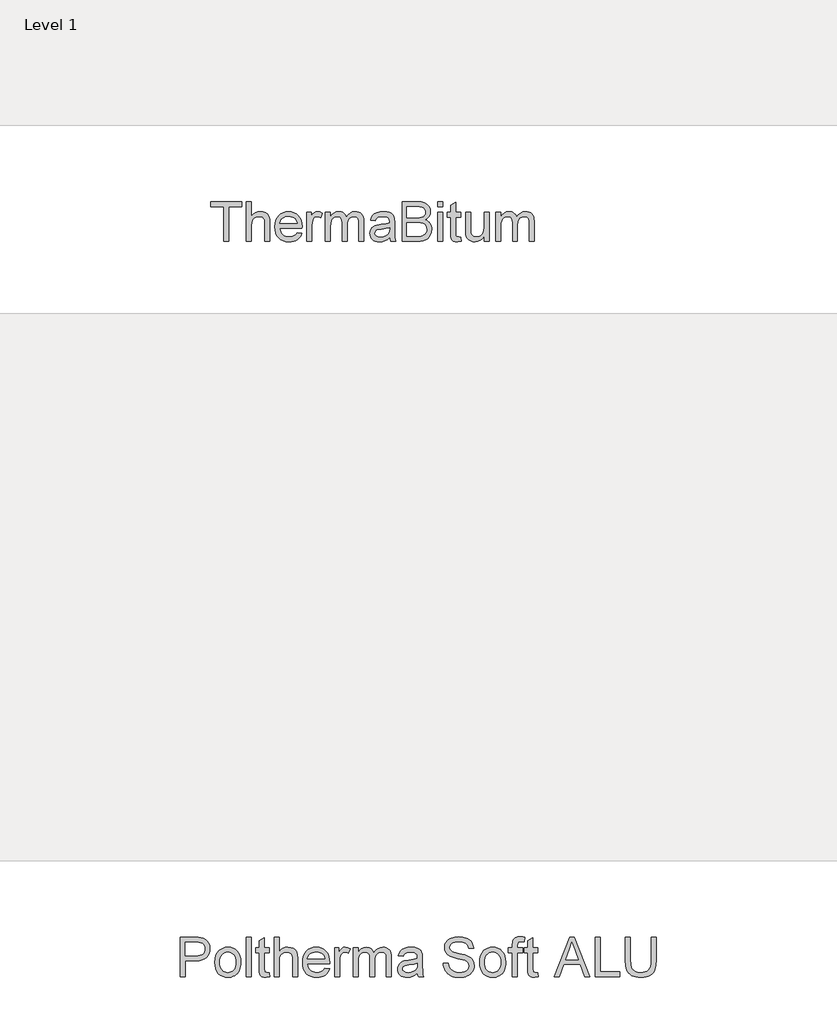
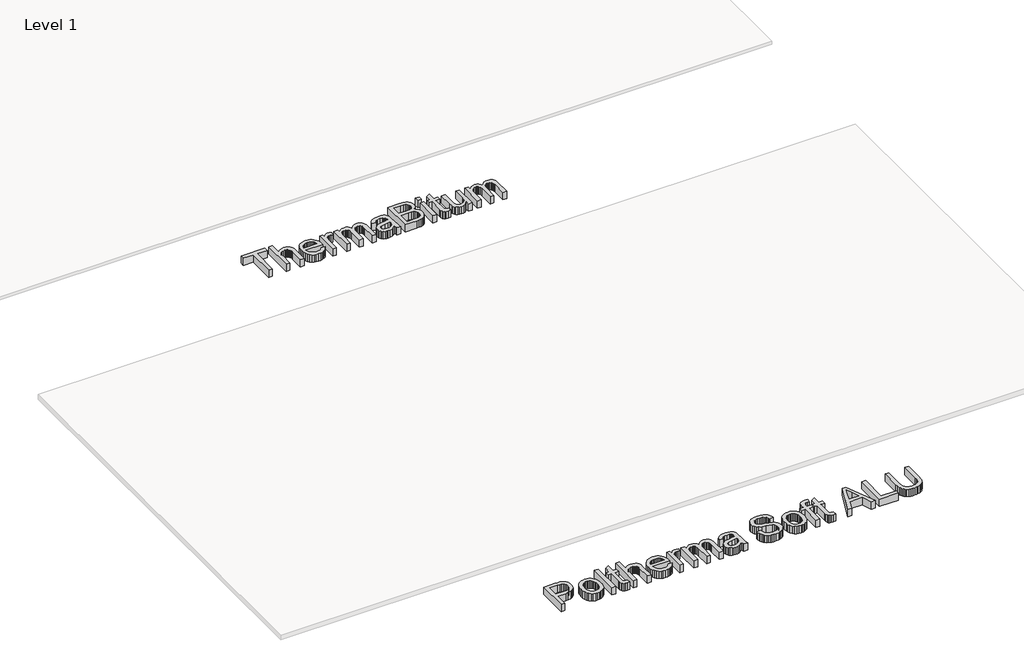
# One storey, part 16 of 27: 2 proxies.
"""IFC4 building model written with IfcOpenShell, lengths in millimetres."""

from ifc_helpers import new_model, si_unit, origin, origin_with_axes, place, context, project, spatial, polyline, outline, extrude, element, save

model = new_model("IFC4")

# Units and contexts
model_context = context("Model", 3, world=origin())
ifc_project = project(units=[si_unit("LENGTHUNIT", "METRE", prefix="MILLI")], contexts=[model_context])

# Site, building, storey
site = spatial("IfcSite", under=ifc_project)
building = spatial("IfcBuilding", under=site)
storey = spatial("IfcBuildingStorey", under=building, Name="Level 1", Elevation=0.0)

# Proxies
placement = place(None, origin())
element("IfcBuildingElementProxy", 1, Name="600mm Arial", ObjectType="600mm Arial", at=placement, inside=storey, context=model_context, shape_type="SweptSolid", body=[
    extrude(outline(polyline([(31274.77699, -34088.4076888), (31274.77699, -33571.4846119), (31080.9308362, -33571.4846119), (31080.9308362, -33497.6384581), (31542.4692977, -33497.6384581), (31542.4692977, -33571.4846119), (31348.6231439, -33571.4846119), (31348.6231439, -34088.4076888), (31274.77699, -34088.4076888)])), origin_with_axes(), (0.0, 0.0, 1.0), 150.0),
    extrude(outline(polyline([(31616.3154516, -34088.4076888), (31616.3154516, -33497.6384581), (31690.1616054, -33497.6384581), (31690.1616054, -33714.8499965), (31717.2860045, -33684.4353331), (31747.74574, -33662.7105734), (31781.5408122, -33649.6757177), (31818.6712208, -33645.3307657), (31863.2745862, -33650.0723523), (31901.6039131, -33664.2971119), (31931.7842016, -33686.8872561), (31951.9404516, -33716.7249965), (31963.2986247, -33757.7225927), (31967.0846824, -33813.7923042), (31967.0846824, -34088.4076888), (31893.2385285, -34088.4076888), (31893.2385285, -33821.436535), (31891.7691775, -33796.5026407), (31887.3611247, -33775.2105734), (31880.0143699, -33757.5603331), (31869.7289131, -33743.5519196), (31856.7481439, -33732.8878571), (31841.3154516, -33725.2706696), (31823.4308362, -33720.7003571), (31803.0942977, -33719.1769196), (31771.886365, -33723.2874965), (31742.58949, -33735.6192273), (31718.3226631, -33754.9822081), (31702.2048747, -33780.186535), (31693.1724227, -33813.6841311), (31690.1616054, -33857.9269196), (31690.1616054, -34088.4076888), (31616.3154516, -34088.4076888)])), origin_with_axes(), (0.0, 0.0, 1.0), 150.0),
    extrude(outline(polyline([(32372.3731439, -33959.1769196), (32444.77699, -33968.4076888), (32433.675728, -33997.4070879), (32418.6892497, -34022.9629773), (32399.8175549, -34045.0753571), (32377.0606439, -34063.7442273), (32350.6528915, -34078.5729532), (32320.8286727, -34089.1649004), (32287.5879876, -34095.5200686), (32250.9308362, -34097.6384581), (32205.1105237, -34093.9831095), (32164.2842016, -34083.0170638), (32128.4518699, -34064.740321), (32097.6135285, -34039.1528811), (32072.8148506, -34006.9668835), (32055.1015093, -33968.8944677), (32044.4735045, -33924.9356335), (32040.9308362, -33875.0903811), (32044.5095622, -33823.5549244), (32055.24574, -33778.1312465), (32073.1393699, -33738.8193475), (32098.1904516, -33705.6192273), (32128.9476631, -33679.2430254), (32163.9596824, -33660.4028811), (32203.2265093, -33649.0987946), (32246.7481439, -33645.3307657), (32288.8680357, -33649.0897802), (32326.9584804, -33660.3668234), (32361.019478, -33679.1618956), (32391.0510285, -33705.4749965), (32415.5657521, -33738.6030013), (32433.0762689, -33777.842785), (32443.582579, -33823.1943475), (32447.0846824, -33874.6576888), (32446.65199, -33894.561535), (32114.77699, -33894.561535), (32119.0543338, -33924.029684), (32127.559442, -33949.8379773), (32140.2923146, -33971.9864148), (32157.2529516, -33990.4749965), (32177.503853, -34005.0513186), (32200.1075189, -34015.4629773), (32225.0639492, -34021.7099725), (32252.3731439, -34023.7923042), (32291.6760285, -34019.9341311), (32324.77699, -34008.3596119), (32351.6760285, -33988.3475927), (32372.3731439, -33959.1769196)]), holes=[polyline([(32114.77699, -33820.7153811), (32373.2385285, -33820.7153811), (32363.2505477, -33781.7009581), (32354.6598025, -33766.35841), (32343.6712208, -33753.7923042), (32323.5329997, -33738.6480734), (32300.6183362, -33727.8307657), (32274.9272304, -33721.3403811), (32246.4596824, -33719.1769196), (32220.4936367, -33720.9031816), (32196.6820381, -33726.0819677), (32175.0248867, -33734.7132778), (32155.5221824, -33746.7971119), (32139.1564973, -33761.7745758), (32126.9104035, -33779.0867754), (32118.7839011, -33798.7337105), (32114.77699, -33820.7153811)])]), origin_with_axes(), (0.0, 0.0, 1.0), 150.0),
    extrude(outline(polyline([(32520.9308362, -34088.4076888), (32520.9308362, -33654.561535), (32585.5462208, -33654.561535), (32585.5462208, -33718.7442273), (32609.4164131, -33681.5326888), (32631.4116054, -33659.6096119), (32653.4789131, -33648.9004773), (32677.5654516, -33645.3307657), (32714.3442977, -33651.0278811), (32751.700067, -33668.1192273), (32727.0366054, -33734.3211504), (32701.075067, -33722.9629773), (32675.1135285, -33719.1769196), (32653.0642497, -33722.8187465), (32633.3587208, -33733.7442273), (32617.4392497, -33751.124035), (32606.7481439, -33774.1288427), (32597.7697785, -33815.3788427), (32594.77699, -33860.3788427), (32594.77699, -34088.4076888), (32520.9308362, -34088.4076888)])), origin_with_axes(), (0.0, 0.0, 1.0), 150.0),
    extrude(outline(polyline([(32797.8539131, -34088.4076888), (32797.8539131, -33654.561535), (32871.700067, -33654.561535), (32871.700067, -33725.9557657), (32893.9116054, -33693.1612946), (32922.4692977, -33667.4701888), (32956.3995862, -33650.8656215), (32994.7289131, -33645.3307657), (33035.7986247, -33650.9737946), (33053.277591, -33658.0275806), (33068.7192977, -33667.9028811), (33093.3106439, -33695.0002369), (33109.3923747, -33731.1480734), (33136.309442, -33693.6030013), (33167.012567, -33666.7850927), (33201.5017497, -33650.6943475), (33239.77699, -33645.3307657), (33269.3397905, -33647.5618355), (33295.2878074, -33654.2550446), (33317.6210405, -33665.4103931), (33336.33949, -33681.0278811), (33351.1366655, -33701.287797), (33361.7060766, -33726.3704292), (33368.0477232, -33756.2757778), (33370.1616054, -33791.0038427), (33370.1616054, -34088.4076888), (33296.3154516, -34088.4076888), (33296.3154516, -33822.7346119), (33294.6027112, -33785.9016792), (33289.46449, -33761.0759581), (33279.8370862, -33744.0747561), (33264.6567977, -33730.7153811), (33245.1315574, -33722.061535), (33222.4692977, -33719.1769196), (33201.5423146, -33721.0248763), (33182.4632881, -33726.5687465), (33165.2322184, -33735.8085302), (33149.8491054, -33748.7442273), (33137.1973626, -33765.7544436), (33128.1604035, -33787.217785), (33122.738228, -33813.1342513), (33120.9308362, -33843.5038427), (33120.9308362, -34088.4076888), (33047.0846824, -34088.4076888), (33047.0846824, -33814.5134581), (33042.8118458, -33772.7586504), (33029.9933362, -33742.9749965), (33020.081978, -33732.5633379), (33007.4392497, -33725.1264388), (32992.0651511, -33720.6642994), (32973.9596824, -33719.1769196), (32945.5101631, -33723.1432657), (32919.2962208, -33735.0423042), (32897.6616054, -33754.5855734), (32882.950067, -33781.4846119), (32874.512567, -33818.8043234), (32871.700067, -33869.6096119), (32871.700067, -34088.4076888), (32797.8539131, -34088.4076888)])), origin_with_axes(), (0.0, 0.0, 1.0), 150.0),
    extrude(outline(polyline([(33757.8539131, -34033.0230734), (33722.5714612, -34063.2754773), (33686.2433362, -34083.0711504), (33648.0402112, -34093.9966311), (33607.1327593, -34097.6384581), (33574.2526511, -34095.4479532), (33545.4200189, -34088.8764388), (33520.6348626, -34077.9239148), (33499.8971824, -34062.5903811), (33483.5224828, -34043.8493956), (33471.8262689, -34022.6745157), (33464.8085405, -33999.0657417), (33462.4692977, -33973.0230734), (33466.0029516, -33942.4100927), (33476.6039131, -33914.6096119), (33492.9560766, -33890.811535), (33513.7433362, -33872.2057657), (33538.1724227, -33858.1432657), (33565.450067, -33847.9749965), (33629.3442977, -33836.8692273), (33704.8491054, -33825.186535), (33757.4212208, -33811.4846119), (33757.8539131, -33795.0423042), (33752.7697785, -33762.0855734), (33746.4146102, -33749.8800446), (33737.5173747, -33740.5230734), (33722.1387689, -33731.1841311), (33703.4067977, -33724.5134581), (33655.8827593, -33719.1769196), (33611.8923747, -33722.7286023), (33581.1712208, -33733.3836504), (33560.2217016, -33753.0891792), (33545.5462208, -33783.7923042), (33471.700067, -33774.561535), (33484.5185766, -33734.1769196), (33503.6471824, -33702.4461504), (33530.87074, -33678.1793234), (33567.9741054, -33660.186535), (33613.3527112, -33649.0447081), (33665.40199, -33645.3307657), (33715.323865, -33648.6120157), (33754.8971824, -33658.4557657), (33784.7349227, -33673.2574484), (33805.450067, -33691.4124965), (33819.1880477, -33713.85841), (33828.0942977, -33741.5326888), (33831.700067, -33806.1480734), (33831.700067, -33898.0230734), (33835.450067, -34026.3163427), (33841.0029516, -34058.0290831), (33850.1616054, -34088.4076888), (33776.3154516, -34088.4076888), (33764.4885285, -34062.7346119), (33757.8539131, -34033.0230734)]), holes=[polyline([(33757.8539131, -33885.3307657), (33708.2385285, -33897.6264388), (33638.7192977, -33907.9749965), (33575.1856439, -33919.9461504), (33558.653192, -33928.1312465), (33546.4116054, -33939.4173042), (33538.83949, -33952.9389388), (33536.3154516, -33967.8307657), (33541.8142497, -33989.7899004), (33558.3106439, -34007.7826888), (33585.4440574, -34019.7899004), (33622.8539131, -34023.7923042), (33662.5173747, -34019.3752369), (33697.5654516, -34006.124035), (33725.9789131, -33986.5987946), (33745.7385285, -33963.3596119), (33754.5005477, -33939.4173042), (33757.4212208, -33906.2442273), (33757.8539131, -33885.3307657)])]), origin_with_axes(), (0.0, 0.0, 1.0), 150.0),
    extrude(outline(polyline([(33942.4692977, -34088.4076888), (33942.4692977, -33497.6384581), (34167.90199, -33497.6384581), (34229.903192, -33501.98341), (34278.3106439, -33515.0182657), (34315.4140093, -33537.0675446), (34330.5852833, -33551.5942874), (34343.5029516, -33568.4557657), (34361.1892497, -33605.3788427), (34367.0846824, -33644.0326888), (34362.1267497, -33679.6036023), (34347.2529516, -33713.0471119), (34322.355115, -33742.3079292), (34287.325067, -33765.3307657), (34309.613228, -33774.8319677), (34329.1700189, -33787.1817273), (34345.9954396, -33802.3800446), (34360.08949, -33820.4269196), (34371.2268098, -33840.7724725), (34379.1820381, -33862.8668234), (34383.9551751, -33886.7099725), (34385.5462208, -33912.3019196), (34381.2012689, -33953.4978331), (34368.1664131, -33991.7009581), (34348.7132881, -34024.1889388), (34325.1135285, -34048.2394196), (34296.2132881, -34065.655285), (34260.8587208, -34078.2394196), (34217.8959804, -34085.8656215), (34166.1712208, -34088.4076888), (33942.4692977, -34088.4076888)]), holes=[polyline([(34016.3154516, -33737.6384581), (34151.1712208, -33737.6384581), (34198.3346824, -33736.0519196), (34229.9212208, -33731.2923042), (34257.4873266, -33720.3487946), (34277.3010285, -33703.9605734), (34289.2541535, -33682.3800446), (34293.2385285, -33655.8596119), (34289.5245862, -33630.1144196), (34278.3827593, -33607.686535), (34260.3178554, -33590.1805254), (34235.8346824, -33579.2009581), (34198.262567, -33573.4136984), (34140.9308362, -33571.4846119), (34016.3154516, -33571.4846119), (34016.3154516, -33737.6384581)]), polyline([(34016.3154516, -34014.561535), (34167.7577593, -34014.561535), (34222.5654516, -34011.6769196), (34248.0041535, -34005.2766792), (34268.9356439, -33995.5951888), (34285.9548747, -33981.7310061), (34299.6567977, -33962.7826888), (34308.6892497, -33939.5975927), (34311.700067, -33913.0230734), (34308.1664131, -33882.1576888), (34297.5654516, -33855.6192273), (34279.0498266, -33834.8680254), (34251.7721824, -33821.3644196), (34213.136365, -33813.9545638), (34160.5462208, -33811.4846119), (34016.3154516, -33811.4846119), (34016.3154516, -34014.561535)])]), origin_with_axes(), (0.0, 0.0, 1.0), 150.0),
    extrude(outline(polyline([(34477.8539131, -34088.4076888), (34477.8539131, -33654.561535), (34551.700067, -33654.561535), (34551.700067, -34088.4076888), (34477.8539131, -34088.4076888)])), origin_with_axes(), (0.0, 0.0, 1.0), 150.0),
    extrude(outline(polyline([(34477.8539131, -33571.4846119), (34477.8539131, -33497.6384581), (34551.700067, -33497.6384581), (34551.700067, -33571.4846119), (34477.8539131, -33571.4846119)])), origin_with_axes(), (0.0, 0.0, 1.0), 150.0),
    extrude(outline(polyline([(34819.3923747, -34026.8211504), (34828.6231439, -34090.5711504), (34773.3827593, -34097.6384581), (34737.9380477, -34094.5735542), (34711.5077593, -34085.3788427), (34692.8298747, -34071.2081696), (34680.6423747, -34053.2153811), (34673.9356439, -34022.3139388), (34671.700067, -33969.4173042), (34671.700067, -33728.4076888), (34616.3154516, -33728.4076888), (34616.3154516, -33654.561535), (34671.700067, -33654.561535), (34671.700067, -33549.1288427), (34745.5462208, -33505.7153811), (34745.5462208, -33654.561535), (34819.3923747, -33654.561535), (34819.3923747, -33728.4076888), (34745.5462208, -33728.4076888), (34745.5462208, -33967.2538427), (34749.4404516, -34005.3307657), (34762.0606439, -34018.8163427), (34772.715692, -34022.5483138), (34787.2289131, -34023.7923042), (34819.3923747, -34026.8211504)])), origin_with_axes(), (0.0, 0.0, 1.0), 150.0),
    extrude(outline(polyline([(35170.1616054, -34088.4076888), (35170.1616054, -34013.8403811), (35143.4428554, -34050.5020398), (35112.325067, -34076.6889388), (35076.80824, -34092.4010782), (35036.8923747, -34097.6384581), (35000.9248266, -34093.9605734), (34967.4452593, -34082.9269196), (34939.356317, -34066.3403811), (34919.5606439, -34046.0038427), (34906.2373266, -34021.3043234), (34897.5654516, -33991.6288427), (34893.2385285, -33922.9749965), (34893.2385285, -33654.561535), (34967.0846824, -33654.561535), (34967.0846824, -33888.2153811), (34968.2024708, -33934.9461504), (34971.5558362, -33963.5038427), (34982.3190574, -33988.6180254), (35000.762567, -34007.7105734), (35025.6604035, -34019.7718715), (35055.7866054, -34023.7923042), (35087.6435766, -34019.6817273), (35117.4452593, -34007.3499965), (35142.0185766, -33987.9329292), (35158.1904516, -33962.5663427), (35167.168817, -33927.8247561), (35170.1616054, -33880.2826888), (35170.1616054, -33654.561535), (35244.0077593, -33654.561535), (35244.0077593, -34088.4076888), (35170.1616054, -34088.4076888)])), origin_with_axes(), (0.0, 0.0, 1.0), 150.0),
    extrude(outline(polyline([(35345.5462208, -34088.4076888), (35345.5462208, -33654.561535), (35419.3923747, -33654.561535), (35419.3923747, -33725.9557657), (35441.6039131, -33693.1612946), (35470.1616054, -33667.4701888), (35504.0918939, -33650.8656215), (35542.4212208, -33645.3307657), (35583.4909324, -33650.9737946), (35600.9698987, -33658.0275806), (35616.4116054, -33667.9028811), (35641.0029516, -33695.0002369), (35657.0846824, -33731.1480734), (35684.0017497, -33693.6030013), (35714.7048747, -33666.7850927), (35749.1940574, -33650.6943475), (35787.4692977, -33645.3307657), (35817.0320982, -33647.5618355), (35842.980115, -33654.2550446), (35865.3133482, -33665.4103931), (35884.0317977, -33681.0278811), (35898.8289732, -33701.287797), (35909.3983843, -33726.3704292), (35915.7400309, -33756.2757778), (35917.8539131, -33791.0038427), (35917.8539131, -34088.4076888), (35844.0077593, -34088.4076888), (35844.0077593, -33822.7346119), (35842.2950189, -33785.9016792), (35837.1567977, -33761.0759581), (35827.5293939, -33744.0747561), (35812.3491054, -33730.7153811), (35792.823865, -33722.061535), (35770.1616054, -33719.1769196), (35749.2346223, -33721.0248763), (35730.1555958, -33726.5687465), (35712.9245261, -33735.8085302), (35697.5414131, -33748.7442273), (35684.8896703, -33765.7544436), (35675.8527112, -33787.217785), (35670.4305357, -33813.1342513), (35668.6231439, -33843.5038427), (35668.6231439, -34088.4076888), (35594.77699, -34088.4076888), (35594.77699, -33814.5134581), (35590.5041535, -33772.7586504), (35577.6856439, -33742.9749965), (35567.7742857, -33732.5633379), (35555.1315574, -33725.1264388), (35539.7574588, -33720.6642994), (35521.65199, -33719.1769196), (35493.2024708, -33723.1432657), (35466.9885285, -33735.0423042), (35445.3539131, -33754.5855734), (35430.6423747, -33781.4846119), (35422.2048747, -33818.8043234), (35419.3923747, -33869.6096119), (35419.3923747, -34088.4076888), (35345.5462208, -34088.4076888)])), origin_with_axes(), (0.0, 0.0, 1.0), 150.0),
])
element("IfcBuildingElementProxy", 2, Name="600mm Arial", ObjectType="600mm Arial", at=placement, inside=storey, context=model_context, shape_type="SweptSolid", body=[
    extrude(outline(polyline([(30627.0846824, -45088.4076888), (30627.0846824, -44497.6384581), (30846.02699, -44497.6384581), (30897.012567, -44499.0447081), (30934.2962208, -44503.2634581), (30973.653192, -44513.7742754), (31006.0510285, -44530.8836504), (31032.1387689, -44555.3668234), (31052.5654516, -44587.999035), (31065.762567, -44626.4906215), (31070.1616054, -44668.5519196), (31067.191353, -44704.8169436), (31058.2805958, -44738.1793234), (31043.4293338, -44768.639059), (31022.637567, -44796.1961504), (30994.0933963, -44819.0386984), (30955.9849227, -44835.3548042), (30908.3121463, -44845.1444677), (30851.075067, -44848.4076888), (30700.9308362, -44848.4076888), (30700.9308362, -45088.4076888), (30627.0846824, -45088.4076888)]), holes=[polyline([(30700.9308362, -44774.561535), (30855.40199, -44774.561535), (30890.918817, -44772.8668234), (30920.8827593, -44767.7826888), (30945.293817, -44759.3091311), (30964.15199, -44747.4461504), (30978.2235045, -44732.5092513), (30988.2745862, -44714.8139388), (30994.3052352, -44694.3602129), (30996.3154516, -44671.1480734), (30991.573865, -44637.9749965), (30977.3491054, -44609.9942273), (30955.4079997, -44588.936535), (30927.5173747, -44576.5326888), (30899.0317977, -44572.7466311), (30853.6712208, -44571.4846119), (30700.9308362, -44571.4846119), (30700.9308362, -44774.561535)])]), origin_with_axes(), (0.0, 0.0, 1.0), 150.0),
    extrude(outline(polyline([(31144.0077593, -44871.4846119), (31148.0011487, -44815.2977129), (31159.981317, -44766.8812465), (31179.9482641, -44726.2352129), (31207.90199, -44693.3596119), (31236.0450189, -44672.3469917), (31267.1087208, -44657.3379773), (31301.0930958, -44648.3325686), (31337.9981439, -44645.3307657), (31378.738829, -44648.9861143), (31415.5762689, -44659.95216), (31448.5104636, -44678.2289028), (31477.5414131, -44703.8163427), (31501.2358242, -44735.8490951), (31518.1604035, -44773.4617754), (31528.3151511, -44816.6543835), (31531.700067, -44865.4269196), (31530.2036727, -44904.9551648), (31525.71449, -44940.030285), (31518.2325189, -44970.6522802), (31507.7577593, -44996.8211504), (31494.4209203, -45019.4248162), (31478.3527112, -45039.3511984), (31459.5531319, -45056.600297), (31438.0221824, -45071.1721119), (31414.598204, -45082.7511383), (31390.1195381, -45091.0218715), (31364.5861848, -45095.9843114), (31337.9981439, -45097.6384581), (31296.6625069, -45093.9966311), (31259.4825189, -45083.0711504), (31226.4581799, -45064.8620157), (31197.58949, -45039.3692273), (31174.1474828, -45007.0254773), (31157.403192, -44968.2634581), (31147.3566174, -44923.0831696), (31144.0077593, -44871.4846119)]), holes=[polyline([(31217.8539131, -44871.3403811), (31219.9903314, -44907.1591912), (31226.3995862, -44938.1733138), (31237.0816775, -44964.3827489), (31252.0366054, -44985.7874965), (31270.2277112, -45002.4145999), (31290.6183362, -45014.2911023), (31313.2084804, -45021.4170037), (31337.9981439, -45023.7923042), (31362.6616054, -45021.4034821), (31385.1616054, -45014.2370157), (31405.4981439, -45002.2929052), (31423.6712208, -44985.5711504), (31438.6261487, -44963.9545638), (31449.30824, -44937.3259581), (31455.7174949, -44905.6853331), (31457.8539131, -44869.0326888), (31455.7039732, -44834.349696), (31449.2541535, -44804.1468715), (31438.504454, -44778.4242153), (31423.4548747, -44757.1817273), (31405.2141896, -44740.5546239), (31384.8911727, -44728.6781215), (31362.4858242, -44721.5522201), (31337.9981439, -44719.1769196), (31313.2084804, -44721.5432056), (31290.6183362, -44728.6420638), (31270.2277112, -44740.4734941), (31252.0366054, -44757.0374965), (31237.0816775, -44778.3791431), (31226.3995862, -44804.5435061), (31219.9903314, -44835.5305855), (31217.8539131, -44871.3403811)])]), origin_with_axes(), (0.0, 0.0, 1.0), 150.0),
    extrude(outline(polyline([(31614.77699, -45088.4076888), (31614.77699, -44497.6384581), (31688.6231439, -44497.6384581), (31688.6231439, -45088.4076888), (31614.77699, -45088.4076888)])), origin_with_axes(), (0.0, 0.0, 1.0), 150.0),
    extrude(outline(polyline([(31956.3154516, -45026.8211504), (31965.5462208, -45090.5711504), (31910.3058362, -45097.6384581), (31874.8611247, -45094.5735542), (31848.4308362, -45085.3788427), (31829.7529516, -45071.2081696), (31817.5654516, -45053.2153811), (31810.8587208, -45022.3139388), (31808.6231439, -44969.4173042), (31808.6231439, -44728.4076888), (31753.2385285, -44728.4076888), (31753.2385285, -44654.561535), (31808.6231439, -44654.561535), (31808.6231439, -44549.1288427), (31882.4692977, -44505.7153811), (31882.4692977, -44654.561535), (31956.3154516, -44654.561535), (31956.3154516, -44728.4076888), (31882.4692977, -44728.4076888), (31882.4692977, -44967.2538427), (31886.3635285, -45005.3307657), (31898.9837208, -45018.8163427), (31909.6387689, -45022.5483138), (31924.15199, -45023.7923042), (31956.3154516, -45026.8211504)])), origin_with_axes(), (0.0, 0.0, 1.0), 150.0),
    extrude(outline(polyline([(32030.1616054, -45088.4076888), (32030.1616054, -44497.6384581), (32104.0077593, -44497.6384581), (32104.0077593, -44714.8499965), (32131.1321583, -44684.4353331), (32161.5918939, -44662.7105734), (32195.386966, -44649.6757177), (32232.5173747, -44645.3307657), (32277.12074, -44650.0723523), (32315.450067, -44664.2971119), (32345.6303554, -44686.8872561), (32365.7866054, -44716.7249965), (32377.1447785, -44757.7225927), (32380.9308362, -44813.7923042), (32380.9308362, -45088.4076888), (32307.0846824, -45088.4076888), (32307.0846824, -44821.436535), (32305.6153314, -44796.5026407), (32301.2072785, -44775.2105734), (32293.8605237, -44757.5603331), (32283.575067, -44743.5519196), (32270.5942977, -44732.8878571), (32255.1616054, -44725.2706696), (32237.27699, -44720.7003571), (32216.9404516, -44719.1769196), (32185.7325189, -44723.2874965), (32156.4356439, -44735.6192273), (32132.168817, -44754.9822081), (32116.0510285, -44780.186535), (32107.0185766, -44813.6841311), (32104.0077593, -44857.9269196), (32104.0077593, -45088.4076888), (32030.1616054, -45088.4076888)])), origin_with_axes(), (0.0, 0.0, 1.0), 150.0),
    extrude(outline(polyline([(32786.2192977, -44959.1769196), (32858.6231439, -44968.4076888), (32847.5218819, -44997.4070879), (32832.5354035, -45022.9629773), (32813.6637088, -45045.0753571), (32790.9067977, -45063.7442273), (32764.4990453, -45078.5729532), (32734.6748266, -45089.1649004), (32701.4341415, -45095.5200686), (32664.77699, -45097.6384581), (32618.9566775, -45093.9831095), (32578.1303554, -45083.0170638), (32542.2980237, -45064.740321), (32511.4596824, -45039.1528811), (32486.6610045, -45006.9668835), (32468.9476631, -44968.8944677), (32458.3196583, -44924.9356335), (32454.77699, -44875.0903811), (32458.355716, -44823.5549244), (32469.0918939, -44778.1312465), (32486.9855237, -44738.8193475), (32512.0366054, -44705.6192273), (32542.793817, -44679.2430254), (32577.8058362, -44660.4028811), (32617.0726631, -44649.0987946), (32660.5942977, -44645.3307657), (32702.7141896, -44649.0897802), (32740.8046343, -44660.3668234), (32774.8656319, -44679.1618956), (32804.8971824, -44705.4749965), (32829.4119059, -44738.6030013), (32846.9224227, -44777.842785), (32857.4287328, -44823.1943475), (32860.9308362, -44874.6576888), (32860.4981439, -44894.561535), (32528.6231439, -44894.561535), (32532.9004876, -44924.029684), (32541.4055958, -44949.8379773), (32554.1384684, -44971.9864148), (32571.0991054, -44990.4749965), (32591.3500069, -45005.0513186), (32613.9536727, -45015.4629773), (32638.910103, -45021.7099725), (32666.2192977, -45023.7923042), (32705.5221824, -45019.9341311), (32738.6231439, -45008.3596119), (32765.5221824, -44988.3475927), (32786.2192977, -44959.1769196)]), holes=[polyline([(32528.6231439, -44820.7153811), (32787.0846824, -44820.7153811), (32777.0967016, -44781.7009581), (32768.5059564, -44766.35841), (32757.5173747, -44753.7923042), (32737.3791535, -44738.6480734), (32714.46449, -44727.8307657), (32688.7733843, -44721.3403811), (32660.3058362, -44719.1769196), (32634.3397905, -44720.9031816), (32610.528192, -44726.0819677), (32588.8710405, -44734.7132778), (32569.3683362, -44746.7971119), (32553.0026511, -44761.7745758), (32540.7565574, -44779.0867754), (32532.6300549, -44798.7337105), (32528.6231439, -44820.7153811)])]), origin_with_axes(), (0.0, 0.0, 1.0), 150.0),
    extrude(outline(polyline([(32934.77699, -45088.4076888), (32934.77699, -44654.561535), (32999.3923747, -44654.561535), (32999.3923747, -44718.7442273), (33023.262567, -44681.5326888), (33045.2577593, -44659.6096119), (33067.325067, -44648.9004773), (33091.4116054, -44645.3307657), (33128.1904516, -44651.0278811), (33165.5462208, -44668.1192273), (33140.8827593, -44734.3211504), (33114.9212208, -44722.9629773), (33088.9596824, -44719.1769196), (33066.9104035, -44722.8187465), (33047.2048747, -44733.7442273), (33031.2854035, -44751.124035), (33020.5942977, -44774.1288427), (33011.6159324, -44815.3788427), (33008.6231439, -44860.3788427), (33008.6231439, -45088.4076888), (32934.77699, -45088.4076888)])), origin_with_axes(), (0.0, 0.0, 1.0), 150.0),
    extrude(outline(polyline([(33211.700067, -45088.4076888), (33211.700067, -44654.561535), (33285.5462208, -44654.561535), (33285.5462208, -44725.9557657), (33307.7577593, -44693.1612946), (33336.3154516, -44667.4701888), (33370.24574, -44650.8656215), (33408.575067, -44645.3307657), (33449.6447785, -44650.9737946), (33467.1237449, -44658.0275806), (33482.5654516, -44667.9028811), (33507.1567977, -44695.0002369), (33523.2385285, -44731.1480734), (33550.1555958, -44693.6030013), (33580.8587208, -44666.7850927), (33615.3479035, -44650.6943475), (33653.6231439, -44645.3307657), (33683.1859444, -44647.5618355), (33709.1339612, -44654.2550446), (33731.4671944, -44665.4103931), (33750.1856439, -44681.0278811), (33764.9828194, -44701.287797), (33775.5522304, -44726.3704292), (33781.8938771, -44756.2757778), (33784.0077593, -44791.0038427), (33784.0077593, -45088.4076888), (33710.1616054, -45088.4076888), (33710.1616054, -44822.7346119), (33708.448865, -44785.9016792), (33703.3106439, -44761.0759581), (33693.68324, -44744.0747561), (33678.5029516, -44730.7153811), (33658.9777112, -44722.061535), (33636.3154516, -44719.1769196), (33615.3884684, -44721.0248763), (33596.309442, -44726.5687465), (33579.0783723, -44735.8085302), (33563.6952593, -44748.7442273), (33551.0435165, -44765.7544436), (33542.0065574, -44787.217785), (33536.5843819, -44813.1342513), (33534.77699, -44843.5038427), (33534.77699, -45088.4076888), (33460.9308362, -45088.4076888), (33460.9308362, -44814.5134581), (33456.6579997, -44772.7586504), (33443.83949, -44742.9749965), (33433.9281319, -44732.5633379), (33421.2854035, -44725.1264388), (33405.9113049, -44720.6642994), (33387.8058362, -44719.1769196), (33359.356317, -44723.1432657), (33333.1423747, -44735.0423042), (33311.5077593, -44754.5855734), (33296.7962208, -44781.4846119), (33288.3587208, -44818.8043234), (33285.5462208, -44869.6096119), (33285.5462208, -45088.4076888), (33211.700067, -45088.4076888)])), origin_with_axes(), (0.0, 0.0, 1.0), 150.0),
    extrude(outline(polyline([(34171.700067, -45033.0230734), (34136.417615, -45063.2754773), (34100.08949, -45083.0711504), (34061.886365, -45093.9966311), (34020.9789131, -45097.6384581), (33988.0988049, -45095.4479532), (33959.2661727, -45088.8764388), (33934.4810165, -45077.9239148), (33913.7433362, -45062.5903811), (33897.3686367, -45043.8493956), (33885.6724227, -45022.6745157), (33878.6546944, -44999.0657417), (33876.3154516, -44973.0230734), (33879.8491054, -44942.4100927), (33890.450067, -44914.6096119), (33906.8022304, -44890.811535), (33927.58949, -44872.2057657), (33952.0185766, -44858.1432657), (33979.2962208, -44847.9749965), (34043.1904516, -44836.8692273), (34118.6952593, -44825.186535), (34171.2673747, -44811.4846119), (34171.700067, -44795.0423042), (34166.6159324, -44762.0855734), (34160.2607641, -44749.8800446), (34151.3635285, -44740.5230734), (34135.9849227, -44731.1841311), (34117.2529516, -44724.5134581), (34069.7289131, -44719.1769196), (34025.7385285, -44722.7286023), (33995.0173747, -44733.3836504), (33974.0678554, -44753.0891792), (33959.3923747, -44783.7923042), (33885.5462208, -44774.561535), (33898.3647304, -44734.1769196), (33917.4933362, -44702.4461504), (33944.7168939, -44678.1793234), (33981.8202593, -44660.186535), (34027.198865, -44649.0447081), (34079.2481439, -44645.3307657), (34129.1700189, -44648.6120157), (34168.7433362, -44658.4557657), (34198.5810766, -44673.2574484), (34219.2962208, -44691.4124965), (34233.0342016, -44713.85841), (34241.9404516, -44741.5326888), (34245.5462208, -44806.1480734), (34245.5462208, -44898.0230734), (34249.2962208, -45026.3163427), (34254.8491054, -45058.0290831), (34264.0077593, -45088.4076888), (34190.1616054, -45088.4076888), (34178.3346824, -45062.7346119), (34171.700067, -45033.0230734)]), holes=[polyline([(34171.700067, -44885.3307657), (34122.0846824, -44897.6264388), (34052.5654516, -44907.9749965), (33989.0317977, -44919.9461504), (33972.4993458, -44928.1312465), (33960.2577593, -44939.4173042), (33952.6856439, -44952.9389388), (33950.1616054, -44967.8307657), (33955.6604035, -44989.7899004), (33972.1567977, -45007.7826888), (33999.2902112, -45019.7899004), (34036.700067, -45023.7923042), (34076.3635285, -45019.3752369), (34111.4116054, -45006.124035), (34139.825067, -44986.5987946), (34159.5846824, -44963.3596119), (34168.3467016, -44939.4173042), (34171.2673747, -44906.2442273), (34171.700067, -44885.3307657)])]), origin_with_axes(), (0.0, 0.0, 1.0), 150.0),
    extrude(outline(polyline([(34559.3923747, -44885.3307657), (34633.2385285, -44885.3307657), (34641.7120862, -44926.3103331), (34657.0366054, -44959.249035), (34680.9428554, -44985.3908619), (34715.1616054, -45005.9798042), (34756.9885285, -45019.3391792), (34803.7192977, -45023.7923042), (34844.8611247, -45020.42091), (34880.8827593, -45010.3067273), (34910.0714612, -44994.2971119), (34930.71449, -44973.2394196), (34942.9921343, -44949.0627369), (34947.0846824, -44923.6961504), (34944.0197785, -44898.9786023), (34934.825067, -44877.6144196), (34916.1471824, -44859.3872561), (34884.6327593, -44844.0807657), (34777.1087208, -44815.8836504), (34706.5257881, -44797.2237946), (34661.3635285, -44779.4653811), (34624.6027112, -44754.6216311), (34598.5510285, -44724.5134581), (34583.028192, -44689.7899004), (34577.8539131, -44651.0999965), (34579.4539732, -44629.1093114), (34584.2541535, -44607.8487946), (34592.254454, -44587.318446), (34603.4548747, -44567.5182657), (34617.7292136, -44549.2550446), (34634.9512689, -44533.3355734), (34655.1210405, -44519.7598523), (34678.2385285, -44508.5278811), (34730.1976631, -44493.4377369), (34787.7096824, -44488.4076888), (34850.0173747, -44493.6721119), (34904.5366054, -44509.4653811), (34928.3887689, -44521.2292032), (34949.3202593, -44535.4629773), (34967.3310766, -44552.1667032), (34982.4212208, -44571.3403811), (34994.4735045, -44592.4251167), (35003.37074, -44614.8620157), (35009.1129275, -44638.6510782), (35011.700067, -44663.7923042), (34937.8539131, -44663.7923042), (34932.9140093, -44640.2286023), (34924.2962208, -44619.7298042), (34912.0005477, -44602.29591), (34896.02699, -44587.9269196), (34876.0780718, -44576.6949484), (34851.856317, -44568.6721119), (34823.3617256, -44563.85841), (34790.5942977, -44562.2538427), (34756.7811968, -44563.8403811), (34727.8899708, -44568.5999965), (34703.9206199, -44576.5326888), (34684.8731439, -44587.6384581), (34670.3599227, -44600.9888186), (34659.9933362, -44615.655285), (34653.7733843, -44631.6378571), (34651.700067, -44648.936535), (34657.5774708, -44677.3139388), (34675.2096824, -44700.1384581), (34691.3995862, -44710.2886984), (34716.8923747, -44720.5471119), (34795.7866054, -44741.3884581), (34877.2048747, -44761.1841311), (34926.4596824, -44778.4557657), (34968.5570381, -44805.2466311), (34984.832579, -44820.9948282), (34997.9260285, -44838.311535), (35007.9906319, -44857.1066071), (35015.1796343, -44877.2899004), (35020.9308362, -44921.8211504), (35019.2766896, -44944.9206095), (35014.3142497, -44967.3439869), (35006.0435165, -44989.0912826), (34994.46449, -45010.1624965), (34979.7799949, -45029.7418234), (34962.1928554, -45047.0134581), (34941.7030718, -45061.9774004), (34918.3106439, -45074.6336504), (34892.6961607, -45084.6982537), (34865.5402112, -45091.8872561), (34806.6039131, -45097.6384581), (34768.8289732, -45096.0879773), (34734.2541535, -45091.436535), (34702.879454, -45083.6841311), (34674.7048747, -45072.8307657), (34649.5591415, -45058.85841), (34627.2709804, -45041.749035), (34607.8403915, -45021.5026407), (34591.2673747, -44998.1192273), (34577.9170141, -44972.3560061), (34568.1543939, -44944.9701888), (34561.9795141, -44915.9617754), (34559.3923747, -44885.3307657)])), origin_with_axes(), (0.0, 0.0, 1.0), 150.0),
    extrude(outline(polyline([(35104.0077593, -44871.4846119), (35108.0011487, -44815.2977129), (35119.981317, -44766.8812465), (35139.9482641, -44726.2352129), (35167.90199, -44693.3596119), (35196.0450189, -44672.3469917), (35227.1087208, -44657.3379773), (35261.0930958, -44648.3325686), (35297.9981439, -44645.3307657), (35338.738829, -44648.9861143), (35375.5762689, -44659.95216), (35408.5104636, -44678.2289028), (35437.5414131, -44703.8163427), (35461.2358242, -44735.8490951), (35478.1604035, -44773.4617754), (35488.3151511, -44816.6543835), (35491.700067, -44865.4269196), (35490.2036727, -44904.9551648), (35485.71449, -44940.030285), (35478.2325189, -44970.6522802), (35467.7577593, -44996.8211504), (35454.4209203, -45019.4248162), (35438.3527112, -45039.3511984), (35419.5531319, -45056.600297), (35398.0221824, -45071.1721119), (35374.598204, -45082.7511383), (35350.1195381, -45091.0218715), (35324.5861848, -45095.9843114), (35297.9981439, -45097.6384581), (35256.6625069, -45093.9966311), (35219.4825189, -45083.0711504), (35186.4581799, -45064.8620157), (35157.58949, -45039.3692273), (35134.1474828, -45007.0254773), (35117.403192, -44968.2634581), (35107.3566174, -44923.0831696), (35104.0077593, -44871.4846119)]), holes=[polyline([(35177.8539131, -44871.3403811), (35179.9903314, -44907.1591912), (35186.3995862, -44938.1733138), (35197.0816775, -44964.3827489), (35212.0366054, -44985.7874965), (35230.2277112, -45002.4145999), (35250.6183362, -45014.2911023), (35273.2084804, -45021.4170037), (35297.9981439, -45023.7923042), (35322.6616054, -45021.4034821), (35345.1616054, -45014.2370157), (35365.4981439, -45002.2929052), (35383.6712208, -44985.5711504), (35398.6261487, -44963.9545638), (35409.30824, -44937.3259581), (35415.7174949, -44905.6853331), (35417.8539131, -44869.0326888), (35415.7039732, -44834.349696), (35409.2541535, -44804.1468715), (35398.504454, -44778.4242153), (35383.4548747, -44757.1817273), (35365.2141896, -44740.5546239), (35344.8911727, -44728.6781215), (35322.4858242, -44721.5522201), (35297.9981439, -44719.1769196), (35273.2084804, -44721.5432056), (35250.6183362, -44728.6420638), (35230.2277112, -44740.4734941), (35212.0366054, -44757.0374965), (35197.0816775, -44778.3791431), (35186.3995862, -44804.5435061), (35179.9903314, -44835.5305855), (35177.8539131, -44871.3403811)])]), origin_with_axes(), (0.0, 0.0, 1.0), 150.0),
    extrude(outline(polyline([(35593.2385285, -45088.4076888), (35593.2385285, -44728.4076888), (35528.6231439, -44728.4076888), (35528.6231439, -44654.561535), (35593.2385285, -44654.561535), (35593.2385285, -44610.8596119), (35595.1856439, -44574.6937465), (35601.02699, -44549.2730734), (35615.8827593, -44524.717785), (35638.8154516, -44505.2826888), (35670.9067977, -44492.6264388), (35713.2385285, -44488.4076888), (35745.293817, -44490.4269196), (35780.5942977, -44496.4846119), (35769.77699, -44565.7153811), (35727.2289131, -44562.2538427), (35699.1579997, -44565.3187465), (35680.71449, -44574.5134581), (35670.4921343, -44592.0735542), (35667.0846824, -44620.2346119), (35667.0846824, -44654.561535), (35750.1616054, -44654.561535), (35750.1616054, -44728.4076888), (35667.0846824, -44728.4076888), (35667.0846824, -45088.4076888), (35593.2385285, -45088.4076888)])), origin_with_axes(), (0.0, 0.0, 1.0), 150.0),
    extrude(outline(polyline([(35971.700067, -45026.8211504), (35980.9308362, -45090.5711504), (35925.6904516, -45097.6384581), (35890.24574, -45094.5735542), (35863.8154516, -45085.3788427), (35845.137567, -45071.2081696), (35832.950067, -45053.2153811), (35826.2433362, -45022.3139388), (35824.0077593, -44969.4173042), (35824.0077593, -44728.4076888), (35768.6231439, -44728.4076888), (35768.6231439, -44654.561535), (35824.0077593, -44654.561535), (35824.0077593, -44549.1288427), (35897.8539131, -44505.7153811), (35897.8539131, -44654.561535), (35971.700067, -44654.561535), (35971.700067, -44728.4076888), (35897.8539131, -44728.4076888), (35897.8539131, -44967.2538427), (35901.7481439, -45005.3307657), (35914.3683362, -45018.8163427), (35925.0233843, -45022.5483138), (35939.5366054, -45023.7923042), (35971.700067, -45026.8211504)])), origin_with_axes(), (0.0, 0.0, 1.0), 150.0),
    extrude(outline(polyline([(36216.7481439, -45088.4076888), (36452.5654516, -44497.6384581), (36515.450067, -44497.6384581), (36751.2673747, -45088.4076888), (36673.2385285, -45088.4076888), (36605.5942977, -44903.7923042), (36362.27699, -44903.7923042), (36294.77699, -45088.4076888), (36216.7481439, -45088.4076888)]), holes=[polyline([(36389.3923747, -44829.9461504), (36578.6231439, -44829.9461504), (36525.40199, -44684.7057657), (36484.0077593, -44571.4846119), (36447.2289131, -44672.0134581), (36389.3923747, -44829.9461504)])]), origin_with_axes(), (0.0, 0.0, 1.0), 150.0),
    extrude(outline(polyline([(36830.1616054, -45088.4076888), (36830.1616054, -44497.6384581), (36904.0077593, -44497.6384581), (36904.0077593, -45014.561535), (37199.3923747, -45014.561535), (37199.3923747, -45088.4076888), (36830.1616054, -45088.4076888)])), origin_with_axes(), (0.0, 0.0, 1.0), 150.0),
    extrude(outline(polyline([(37670.1616054, -44497.6384581), (37744.0077593, -44497.6384581), (37744.0077593, -44838.4557657), (37738.99574, -44918.2694677), (37732.730716, -44951.2938066), (37723.9596824, -44979.7298042), (37711.9254275, -45004.654684), (37695.87074, -45027.1456696), (37675.7956199, -45047.2027609), (37651.700067, -45064.8259581), (37623.5570381, -45079.1814268), (37591.33949, -45089.4353331), (37555.0474227, -45095.5876768), (37514.6808362, -45097.6384581), (37475.3103434, -45095.8536023), (37439.698865, -45090.499035), (37407.8464011, -45081.5747561), (37379.7529516, -45069.0807657), (37355.4140093, -45053.2018595), (37334.825067, -45034.1228331), (37317.9861247, -45011.8436864), (37304.8971824, -44986.3644196), (37295.0849828, -44956.8106335), (37288.0762689, -44922.3079292), (37282.4692977, -44838.4557657), (37282.4692977, -44497.6384581), (37356.3154516, -44497.6384581), (37356.3154516, -44835.8596119), (37359.9572785, -44902.2237946), (37370.8827593, -44948.4317273), (37379.4735045, -44965.4644797), (37390.6784324, -44980.4329292), (37404.4975429, -44993.3370758), (37420.9308362, -45004.1769196), (37460.3779516, -45018.8884581), (37507.7577593, -45023.7923042), (37548.4578795, -45021.3674244), (37582.8659324, -45014.092785), (37610.9819179, -45001.9683859), (37632.8058362, -44984.9942273), (37649.1489852, -44961.124035), (37660.8226631, -44928.311535), (37667.8268699, -44886.5567273), (37670.1616054, -44835.8596119), (37670.1616054, -44497.6384581)])), origin_with_axes(), (0.0, 0.0, 1.0), 150.0),
])

save(model, "model.ifc")
